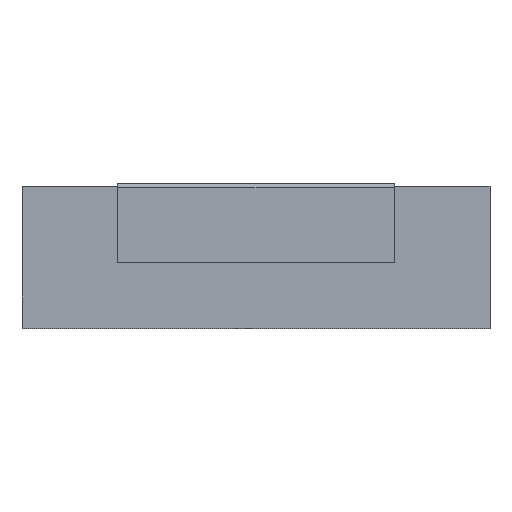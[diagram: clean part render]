
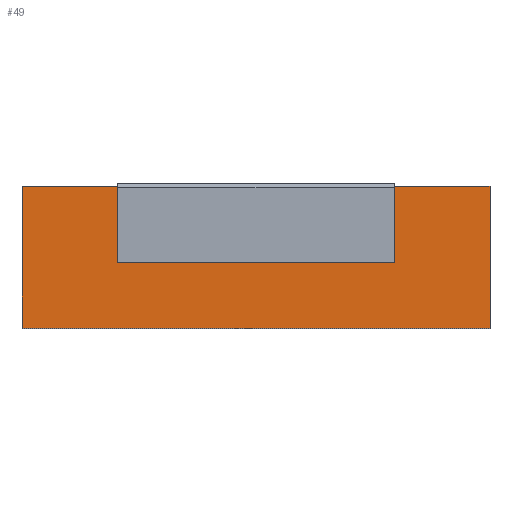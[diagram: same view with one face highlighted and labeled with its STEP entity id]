
A CAD part, top view. The second image highlights one B-rep face of the part: STEP entity #49.
In plain terms, the highlighted planar face has unit normal (0, 0, 1).
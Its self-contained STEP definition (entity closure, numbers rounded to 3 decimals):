
#49 = ADVANCED_FACE ( 'NONE', ( #426 ), #2300, .T. ) ;
#190 = EDGE_CURVE ( 'NONE', #1893, #1991, #702, .T. ) ;
#205 = EDGE_CURVE ( 'NONE', #1993, #1893, #732, .T. ) ;
#265 = AXIS2_PLACEMENT_3D ( 'NONE', #2230, #2295, #2294 ) ;
#426 = FACE_OUTER_BOUND ( 'NONE', #1575, .T. ) ;
#702 = LINE ( 'NONE', #1154, #703 ) ;
#703 = VECTOR ( 'NONE', #1155, 1000. ) ;
#732 = LINE ( 'NONE', #1185, #733 ) ;
#733 = VECTOR ( 'NONE', #1186, 1000. ) ;
#762 = LINE ( 'NONE', #1342, #764 ) ;
#764 = VECTOR ( 'NONE', #1350, 1000. ) ;
#768 = LINE ( 'NONE', #1353, #769 ) ;
#769 = VECTOR ( 'NONE', #1354, 1000. ) ;
#772 = LINE ( 'NONE', #1357, #773 ) ;
#773 = VECTOR ( 'NONE', #1358, 1000. ) ;
#774 = LINE ( 'NONE', #1359, #775 ) ;
#775 = VECTOR ( 'NONE', #1360, 1000. ) ;
#784 = LINE ( 'NONE', #1369, #785 ) ;
#785 = VECTOR ( 'NONE', #1370, 1000. ) ;
#788 = LINE ( 'NONE', #1373, #789 ) ;
#789 = VECTOR ( 'NONE', #1374, 1000. ) ;
#1154 = CARTESIAN_POINT ( 'NONE',  ( 0., 9., 15.85 ) ) ;
#1155 = DIRECTION ( 'NONE',  ( -1., 0., 0. ) ) ;
#1185 = CARTESIAN_POINT ( 'NONE',  ( 50.9, 0., 15.85 ) ) ;
#1186 = DIRECTION ( 'NONE',  ( 0., -1., 0. ) ) ;
#1204 = CARTESIAN_POINT ( 'NONE',  ( 50.9, 9., 15.85 ) ) ;
#1303 = CARTESIAN_POINT ( 'NONE',  ( 13.1, 9., 15.85 ) ) ;
#1305 = CARTESIAN_POINT ( 'NONE',  ( 50.9, 19.4, 15.85 ) ) ;
#1308 = CARTESIAN_POINT ( 'NONE',  ( 0., 0., 15.85 ) ) ;
#1309 = CARTESIAN_POINT ( 'NONE',  ( 64., 0., 15.85 ) ) ;
#1310 = CARTESIAN_POINT ( 'NONE',  ( 13.1, 19.4, 15.85 ) ) ;
#1311 = CARTESIAN_POINT ( 'NONE',  ( 0., 19.4, 15.85 ) ) ;
#1312 = CARTESIAN_POINT ( 'NONE',  ( 64., 19.4, 15.85 ) ) ;
#1342 = CARTESIAN_POINT ( 'NONE',  ( 0., 0., 15.85 ) ) ;
#1350 = DIRECTION ( 'NONE',  ( 1., 0., 0. ) ) ;
#1353 = CARTESIAN_POINT ( 'NONE',  ( 64., 0., 15.85 ) ) ;
#1354 = DIRECTION ( 'NONE',  ( 0., -1., 0. ) ) ;
#1357 = CARTESIAN_POINT ( 'NONE',  ( 0., 19.4, 15.85 ) ) ;
#1358 = DIRECTION ( 'NONE',  ( 1., 0., 0. ) ) ;
#1359 = CARTESIAN_POINT ( 'NONE',  ( 13.1, 0., 15.85 ) ) ;
#1360 = DIRECTION ( 'NONE',  ( 0., 1., 0. ) ) ;
#1369 = CARTESIAN_POINT ( 'NONE',  ( 0., 0., 15.85 ) ) ;
#1370 = DIRECTION ( 'NONE',  ( 0., -1., 0. ) ) ;
#1373 = CARTESIAN_POINT ( 'NONE',  ( 0., 19.4, 15.85 ) ) ;
#1374 = DIRECTION ( 'NONE',  ( 1., 0., 0. ) ) ;
#1575 = EDGE_LOOP ( 'NONE', ( #1825, #1826, #1827, #1828, #1829, #1830, #1831, #1832 ) ) ;
#1825 = ORIENTED_EDGE ( 'NONE', *, *, #205, .T. ) ;
#1826 = ORIENTED_EDGE ( 'NONE', *, *, #190, .T. ) ;
#1827 = ORIENTED_EDGE ( 'NONE', *, *, #2140, .T. ) ;
#1828 = ORIENTED_EDGE ( 'NONE', *, *, #2139, .F. ) ;
#1829 = ORIENTED_EDGE ( 'NONE', *, *, #2145, .T. ) ;
#1830 = ORIENTED_EDGE ( 'NONE', *, *, #2135, .T. ) ;
#1831 = ORIENTED_EDGE ( 'NONE', *, *, #2137, .F. ) ;
#1832 = ORIENTED_EDGE ( 'NONE', *, *, #2147, .F. ) ;
#1893 = VERTEX_POINT ( 'NONE', #1204 ) ;
#1991 = VERTEX_POINT ( 'NONE', #1303 ) ;
#1993 = VERTEX_POINT ( 'NONE', #1305 ) ;
#1996 = VERTEX_POINT ( 'NONE', #1308 ) ;
#1997 = VERTEX_POINT ( 'NONE', #1309 ) ;
#1998 = VERTEX_POINT ( 'NONE', #1310 ) ;
#1999 = VERTEX_POINT ( 'NONE', #1311 ) ;
#2000 = VERTEX_POINT ( 'NONE', #1312 ) ;
#2135 = EDGE_CURVE ( 'NONE', #1996, #1997, #762, .T. ) ;
#2137 = EDGE_CURVE ( 'NONE', #2000, #1997, #768, .T. ) ;
#2139 = EDGE_CURVE ( 'NONE', #1999, #1998, #772, .T. ) ;
#2140 = EDGE_CURVE ( 'NONE', #1991, #1998, #774, .T. ) ;
#2145 = EDGE_CURVE ( 'NONE', #1999, #1996, #784, .T. ) ;
#2147 = EDGE_CURVE ( 'NONE', #1993, #2000, #788, .T. ) ;
#2230 = CARTESIAN_POINT ( 'NONE',  ( 0., 0., 15.85 ) ) ;
#2294 = DIRECTION ( 'NONE',  ( 1., 0., 0. ) ) ;
#2295 = DIRECTION ( 'NONE',  ( 0., 0., 1. ) ) ;
#2300 = PLANE ( 'NONE',  #265 ) ;
